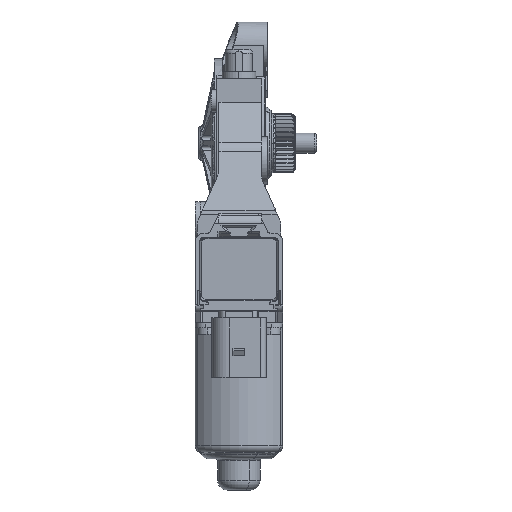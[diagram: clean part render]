
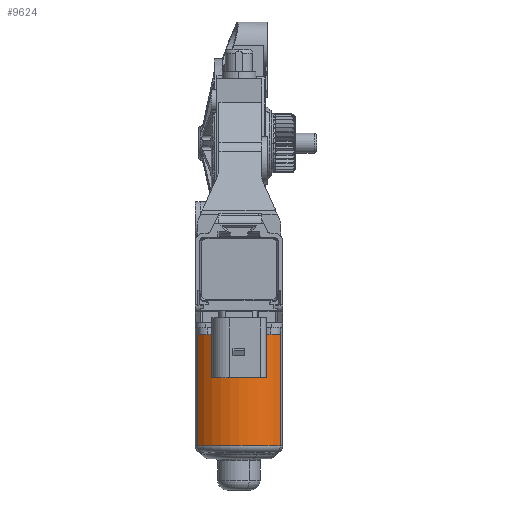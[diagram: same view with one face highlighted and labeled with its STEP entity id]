
A CAD part, front view. The second image highlights one B-rep face of the part: STEP entity #9624.
In plain terms, the highlighted cylindrical face has radius 21.9 mm (diameter 43.8 mm), a partial arc.
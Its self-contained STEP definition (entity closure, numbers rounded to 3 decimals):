
#3638=AXIS2_PLACEMENT_3D('Circle Axis2P3D',#3636,#3637,$) ;
#9611=AXIS2_PLACEMENT_3D('Cylinder Axis2P3D',#9608,#9609,#9610) ;
#9615=AXIS2_PLACEMENT_3D('Circle Axis2P3D',#9613,#9614,$) ;
#3633=CARTESIAN_POINT('Vertex',(-16.517,-14.381,-2.)) ;
#3636=CARTESIAN_POINT('Axis2P3D Location',(0.,0.,-2.)) ;
#3640=CARTESIAN_POINT('Vertex',(16.517,-14.381,-2.)) ;
#3712=CARTESIAN_POINT('Line Origine',(16.517,-14.381,-26.)) ;
#3716=CARTESIAN_POINT('Vertex',(16.517,-14.381,-49.3)) ;
#5559=CARTESIAN_POINT('Line Origine',(-16.517,-14.381,-26.)) ;
#5563=CARTESIAN_POINT('Vertex',(-16.517,-14.381,-49.3)) ;
#9608=CARTESIAN_POINT('Axis2P3D Location',(0.,0.,-26.)) ;
#9613=CARTESIAN_POINT('Axis2P3D Location',(0.,0.,-49.3)) ;
#3637=DIRECTION('Axis2P3D Direction',(0.,0.,1.)) ;
#3713=DIRECTION('Vector Direction',(0.,0.,1.)) ;
#5560=DIRECTION('Vector Direction',(0.,0.,1.)) ;
#9609=DIRECTION('Axis2P3D Direction',(0.,0.,1.)) ;
#9610=DIRECTION('Axis2P3D XDirection',(-0.754,-0.657,0.)) ;
#9614=DIRECTION('Axis2P3D Direction',(0.,0.,1.)) ;
#3714=VECTOR('Line Direction',#3713,1.) ;
#5561=VECTOR('Line Direction',#5560,1.) ;
#9619=ORIENTED_EDGE('',*,*,#3718,.F.) ;
#9620=ORIENTED_EDGE('',*,*,#3642,.F.) ;
#9621=ORIENTED_EDGE('',*,*,#5565,.T.) ;
#9622=ORIENTED_EDGE('',*,*,#9617,.T.) ;
#9624=ADVANCED_FACE('Part Body',(#9623),#9612,.T.) ;
#3639=CIRCLE('generated circle',#3638,21.9) ;
#9616=CIRCLE('generated circle',#9615,21.9) ;
#9612=CYLINDRICAL_SURFACE('generated cylinder',#9611,21.9) ;
#3642=EDGE_CURVE('',#3634,#3641,#3639,.T.) ;
#3718=EDGE_CURVE('',#3641,#3717,#3715,.F.) ;
#5565=EDGE_CURVE('',#3634,#5564,#5562,.F.) ;
#9617=EDGE_CURVE('',#5564,#3717,#9616,.T.) ;
#9618=EDGE_LOOP('',(#9619,#9620,#9621,#9622)) ;
#9623=FACE_OUTER_BOUND('',#9618,.T.) ;
#3715=LINE('Line',#3712,#3714) ;
#5562=LINE('Line',#5559,#5561) ;
#3634=VERTEX_POINT('',#3633) ;
#3641=VERTEX_POINT('',#3640) ;
#3717=VERTEX_POINT('',#3716) ;
#5564=VERTEX_POINT('',#5563) ;
